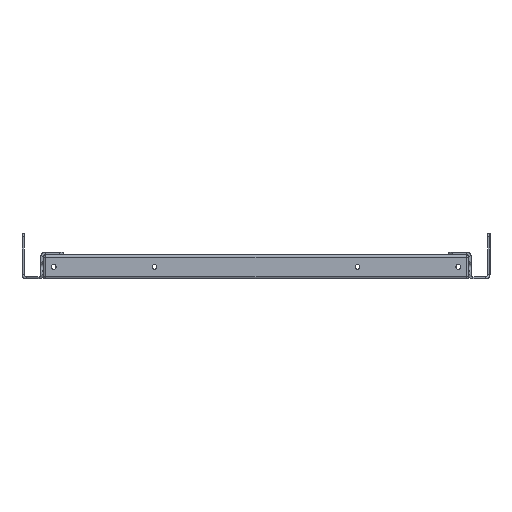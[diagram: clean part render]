
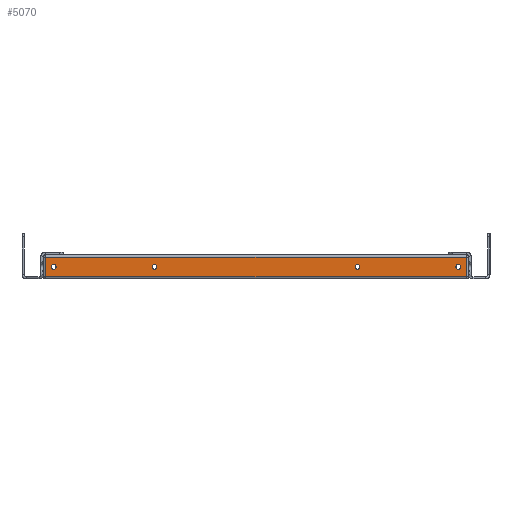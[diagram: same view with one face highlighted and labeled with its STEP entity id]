
A CAD part, left-side view. The second image highlights one B-rep face of the part: STEP entity #5070.
In plain terms, the highlighted planar face has unit normal (-1, 0, 0).
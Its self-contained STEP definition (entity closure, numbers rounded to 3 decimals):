
#273 = VERTEX_POINT ( 'NONE', #3918 ) ;
#331 = CARTESIAN_POINT ( 'NONE',  ( -525., 83.5, 12. ) ) ;
#450 = CARTESIAN_POINT ( 'NONE',  ( -525., -83.5, 10. ) ) ;
#494 = DIRECTION ( 'NONE',  ( 0., 0., 1. ) ) ;
#757 = FACE_BOUND ( 'NONE', #9541, .T. ) ;
#777 = AXIS2_PLACEMENT_3D ( 'NONE', #11892, #6013, #7848 ) ;
#1072 = DIRECTION ( 'NONE',  ( 1., 0., 0. ) ) ;
#1214 = FACE_BOUND ( 'NONE', #7120, .T. ) ;
#1437 = ORIENTED_EDGE ( 'NONE', *, *, #9690, .T. ) ;
#1647 = ORIENTED_EDGE ( 'NONE', *, *, #2232, .T. ) ;
#1652 = DIRECTION ( 'NONE',  ( 0., 0., -1. ) ) ;
#1761 = EDGE_CURVE ( 'NONE', #10163, #8855, #3482, .T. ) ;
#1790 = EDGE_CURVE ( 'NONE', #10040, #5606, #11939, .T. ) ;
#1860 = CARTESIAN_POINT ( 'NONE',  ( -525., 175., 18. ) ) ;
#1980 = CARTESIAN_POINT ( 'NONE',  ( -525., -83.5, 10. ) ) ;
#2074 = ORIENTED_EDGE ( 'NONE', *, *, #4742, .T. ) ;
#2106 = DIRECTION ( 'NONE',  ( 0., 0., 1. ) ) ;
#2197 = ORIENTED_EDGE ( 'NONE', *, *, #10961, .T. ) ;
#2201 = CARTESIAN_POINT ( 'NONE',  ( -525., -166.5, 10. ) ) ;
#2205 = DIRECTION ( 'NONE',  ( -1., 0., 0. ) ) ;
#2232 = EDGE_CURVE ( 'NONE', #8003, #10040, #11566, .T. ) ;
#2261 = FACE_OUTER_BOUND ( 'NONE', #8218, .T. ) ;
#2281 = CARTESIAN_POINT ( 'NONE',  ( -525., 83.5, 10. ) ) ;
#2283 = CARTESIAN_POINT ( 'NONE',  ( -525., 173., 18. ) ) ;
#2438 = AXIS2_PLACEMENT_3D ( 'NONE', #450, #10164, #494 ) ;
#2644 = CARTESIAN_POINT ( 'NONE',  ( -525., -173., 18. ) ) ;
#2959 = DIRECTION ( 'NONE',  ( 0., 0., 1. ) ) ;
#3021 = CARTESIAN_POINT ( 'NONE',  ( -525., 173., 2. ) ) ;
#3187 = AXIS2_PLACEMENT_3D ( 'NONE', #3269, #6172, #4172 ) ;
#3211 = DIRECTION ( 'NONE',  ( 0., 0., 1. ) ) ;
#3269 = CARTESIAN_POINT ( 'NONE',  ( -525., 83.5, 10. ) ) ;
#3344 = DIRECTION ( 'NONE',  ( 0., -1., 0. ) ) ;
#3395 = CARTESIAN_POINT ( 'NONE',  ( -525., -175., 2. ) ) ;
#3414 = VERTEX_POINT ( 'NONE', #6968 ) ;
#3460 = EDGE_CURVE ( 'NONE', #3414, #7252, #7225, .T. ) ;
#3482 = CIRCLE ( 'NONE', #7757, 2. ) ;
#3912 = ORIENTED_EDGE ( 'NONE', *, *, #1761, .T. ) ;
#3918 = CARTESIAN_POINT ( 'NONE',  ( -525., 83.5, 8. ) ) ;
#3945 = DIRECTION ( 'NONE',  ( 1., 0., 0. ) ) ;
#3989 = VERTEX_POINT ( 'NONE', #10090 ) ;
#4172 = DIRECTION ( 'NONE',  ( 0., 0., 1. ) ) ;
#4204 = DIRECTION ( 'NONE',  ( 1., 0., 0. ) ) ;
#4317 = CARTESIAN_POINT ( 'NONE',  ( -525., 166.5, 8. ) ) ;
#4438 = DIRECTION ( 'NONE',  ( 0., 0., 1. ) ) ;
#4723 = AXIS2_PLACEMENT_3D ( 'NONE', #1980, #3945, #2959 ) ;
#4734 = ORIENTED_EDGE ( 'NONE', *, *, #8229, .T. ) ;
#4742 = EDGE_CURVE ( 'NONE', #6481, #3989, #10434, .T. ) ;
#4819 = CIRCLE ( 'NONE', #3187, 2. ) ;
#5070 = ADVANCED_FACE ( 'NONE', ( #757, #11492, #2261, #1214, #11015 ), #5510, .F. ) ;
#5232 = CIRCLE ( 'NONE', #12690, 2. ) ;
#5473 = DIRECTION ( 'NONE',  ( 1., 0., 0. ) ) ;
#5510 = PLANE ( 'NONE',  #8282 ) ;
#5606 = VERTEX_POINT ( 'NONE', #3021 ) ;
#5654 = VECTOR ( 'NONE', #8785, 1000. ) ;
#5752 = ORIENTED_EDGE ( 'NONE', *, *, #8382, .T. ) ;
#5875 = CIRCLE ( 'NONE', #7806, 2. ) ;
#5877 = ORIENTED_EDGE ( 'NONE', *, *, #8778, .F. ) ;
#6013 = DIRECTION ( 'NONE',  ( -1., 0., 0. ) ) ;
#6015 = VECTOR ( 'NONE', #4438, 1000. ) ;
#6141 = DIRECTION ( 'NONE',  ( -1., 0., 0. ) ) ;
#6172 = DIRECTION ( 'NONE',  ( -1., 0., 0. ) ) ;
#6268 = EDGE_LOOP ( 'NONE', ( #2074, #2197 ) ) ;
#6308 = ORIENTED_EDGE ( 'NONE', *, *, #7666, .F. ) ;
#6481 = VERTEX_POINT ( 'NONE', #10982 ) ;
#6501 = LINE ( 'NONE', #11314, #6015 ) ;
#6916 = CIRCLE ( 'NONE', #4723, 2. ) ;
#6967 = AXIS2_PLACEMENT_3D ( 'NONE', #11896, #6141, #2106 ) ;
#6968 = CARTESIAN_POINT ( 'NONE',  ( -525., 166.5, 12. ) ) ;
#7120 = EDGE_LOOP ( 'NONE', ( #4734, #3912 ) ) ;
#7225 = CIRCLE ( 'NONE', #6967, 2. ) ;
#7252 = VERTEX_POINT ( 'NONE', #4317 ) ;
#7578 = CARTESIAN_POINT ( 'NONE',  ( -525., -173., 2. ) ) ;
#7666 = EDGE_CURVE ( 'NONE', #273, #8316, #4819, .T. ) ;
#7757 = AXIS2_PLACEMENT_3D ( 'NONE', #9770, #1072, #12688 ) ;
#7795 = CARTESIAN_POINT ( 'NONE',  ( -525., -166.5, 12. ) ) ;
#7806 = AXIS2_PLACEMENT_3D ( 'NONE', #2201, #4204, #3211 ) ;
#7848 = DIRECTION ( 'NONE',  ( 0., 0., 1. ) ) ;
#7989 = VERTEX_POINT ( 'NONE', #7578 ) ;
#8003 = VERTEX_POINT ( 'NONE', #2644 ) ;
#8010 = LINE ( 'NONE', #3395, #9091 ) ;
#8218 = EDGE_LOOP ( 'NONE', ( #1437, #1647, #11552, #5752 ) ) ;
#8229 = EDGE_CURVE ( 'NONE', #8855, #10163, #5875, .T. ) ;
#8282 = AXIS2_PLACEMENT_3D ( 'NONE', #12376, #5473, #1652 ) ;
#8316 = VERTEX_POINT ( 'NONE', #331 ) ;
#8382 = EDGE_CURVE ( 'NONE', #5606, #7989, #8010, .T. ) ;
#8598 = DIRECTION ( 'NONE',  ( 0., 1., 0. ) ) ;
#8778 = EDGE_CURVE ( 'NONE', #7252, #3414, #10577, .T. ) ;
#8785 = DIRECTION ( 'NONE',  ( 0., 0., -1. ) ) ;
#8798 = EDGE_LOOP ( 'NONE', ( #10202, #5877 ) ) ;
#8855 = VERTEX_POINT ( 'NONE', #7795 ) ;
#8946 = VECTOR ( 'NONE', #8598, 1000. ) ;
#9091 = VECTOR ( 'NONE', #3344, 1000. ) ;
#9157 = DIRECTION ( 'NONE',  ( 0., 0., 1. ) ) ;
#9541 = EDGE_LOOP ( 'NONE', ( #10533, #6308 ) ) ;
#9690 = EDGE_CURVE ( 'NONE', #7989, #8003, #6501, .T. ) ;
#9731 = CARTESIAN_POINT ( 'NONE',  ( -525., 173., 20. ) ) ;
#9770 = CARTESIAN_POINT ( 'NONE',  ( -525., -166.5, 10. ) ) ;
#10040 = VERTEX_POINT ( 'NONE', #2283 ) ;
#10090 = CARTESIAN_POINT ( 'NONE',  ( -525., -83.5, 8. ) ) ;
#10163 = VERTEX_POINT ( 'NONE', #11018 ) ;
#10164 = DIRECTION ( 'NONE',  ( 1., 0., 0. ) ) ;
#10202 = ORIENTED_EDGE ( 'NONE', *, *, #3460, .F. ) ;
#10434 = CIRCLE ( 'NONE', #2438, 2. ) ;
#10533 = ORIENTED_EDGE ( 'NONE', *, *, #10722, .F. ) ;
#10577 = CIRCLE ( 'NONE', #777, 2. ) ;
#10722 = EDGE_CURVE ( 'NONE', #8316, #273, #5232, .T. ) ;
#10961 = EDGE_CURVE ( 'NONE', #3989, #6481, #6916, .T. ) ;
#10982 = CARTESIAN_POINT ( 'NONE',  ( -525., -83.5, 12. ) ) ;
#11015 = FACE_BOUND ( 'NONE', #6268, .T. ) ;
#11018 = CARTESIAN_POINT ( 'NONE',  ( -525., -166.5, 8. ) ) ;
#11314 = CARTESIAN_POINT ( 'NONE',  ( -525., -173., 20. ) ) ;
#11492 = FACE_BOUND ( 'NONE', #8798, .T. ) ;
#11552 = ORIENTED_EDGE ( 'NONE', *, *, #1790, .T. ) ;
#11566 = LINE ( 'NONE', #1860, #8946 ) ;
#11892 = CARTESIAN_POINT ( 'NONE',  ( -525., 166.5, 10. ) ) ;
#11896 = CARTESIAN_POINT ( 'NONE',  ( -525., 166.5, 10. ) ) ;
#11939 = LINE ( 'NONE', #9731, #5654 ) ;
#12376 = CARTESIAN_POINT ( 'NONE',  ( -525., -175., 20. ) ) ;
#12688 = DIRECTION ( 'NONE',  ( 0., 0., 1. ) ) ;
#12690 = AXIS2_PLACEMENT_3D ( 'NONE', #2281, #2205, #9157 ) ;
